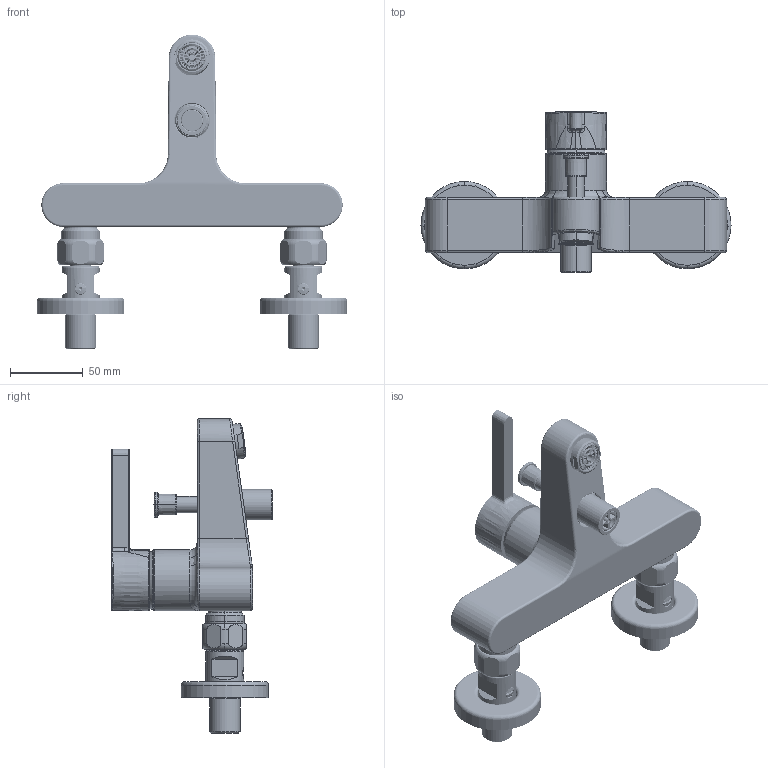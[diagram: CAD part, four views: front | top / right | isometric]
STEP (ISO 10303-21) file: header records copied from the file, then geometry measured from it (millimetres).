
FILE_DESCRIPTION((''),'2;1');
FILE_NAME('509367_AD153_ASM','2025-10-30T08:22:36',('WB441'),(''),'CREO PARAMETRIC BY PTC INC, 2024133','CREO PARAMETRIC BY PTC INC, 2024133','');
FILE_SCHEMA(('CONFIG_CONTROL_DESIGN'));
Products named in the file (49): 616089_AD153; 1800301_1; 1800301_2; 1800301_3; 1800301_4; 1800301_5; 1800301_6; 1800301_7; 1800301_8; 1800301_9; 1800301_10; 18_0030_00010_ASM; 614945; 503609; 40_1001-1008_03300; 537709_T7; 538330-T1; 537709_T2; 537709_T3; 537709_T4; 537709_T5; 537709_T6; 537709_T8; 537709_T9; 538330_ASM; 616073; 616092; 600912; 616104; 616101; A016999; 611780; 604248; 609218; 609217; 506329_ASM; 613636; 606346; 606946; 606155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
Assembly tree (55 placements, depth 4):
  509367_AD153_ASM
    616089_AD153
    18_0030_00010_ASM
      1800301_1
      1800301_2
      1800301_3
      1800301_4
      1800301_5
      1800301_6
      1800301_7
      1800301_8
      1800301_9
      1800301_10
    614945
    503609
    40_1001-1008_03300
    538330_ASM
      537709_T7
      538330-T1
      537709_T2
      537709_T3
      537709_T4
      537709_T5
      537709_T6
      537709_T8
      537709_T9  x2
    616073
    616092
    600912
    616104
    616101
    A016999
    611780  x2
    604248  x2
    506329_ASM  x2
      609218
      609217
    509368_AF3_ASM
      504007_502853_ASM
        613636
        606346
        606946
        606155
        600343
        607557
        607558
        600276
      612818
    509368_AF4_ASM
      504007_502853_ASM
        613636
        606346
        606946
        606155
        600343
        607557
        607558
        600276
      612818
Bounding box: 213 x 110.3 x 216.1 mm (x, y, z)
Volume: 288996 mm3; surface area: 228613.3 mm2
Topology: 58 solids, 89 shells, 3877 faces, 9764 edges, 6118 vertices
Faces by surface type: plane 1544, cylinder 1002, cone 449, bspline 417, torus 394, sphere 43, revolution 24, extrusion 4
Entity records: 150421 total; most frequent: CARTESIAN_POINT 66406, ORIENTED_EDGE 17598, DIRECTION 17370, EDGE_CURVE 8842, AXIS2_PLACEMENT_3D 6607, VERTEX_POINT 5571, VECTOR 4138, LINE 4134
